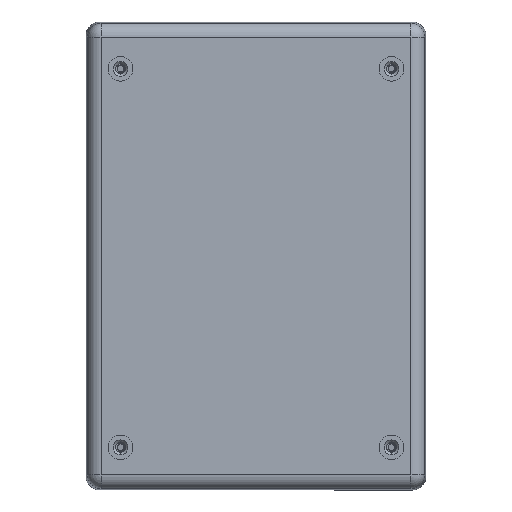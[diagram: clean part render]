
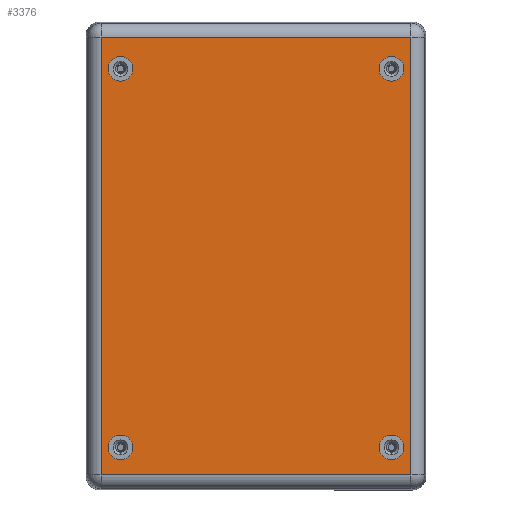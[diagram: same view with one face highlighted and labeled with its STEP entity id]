
A CAD part, front view. The second image highlights one B-rep face of the part: STEP entity #3376.
In plain terms, the highlighted planar face has unit normal (0, -1, 0).
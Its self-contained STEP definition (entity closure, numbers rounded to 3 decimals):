
#216 = CARTESIAN_POINT ( 'NONE',  ( 0., -22.5, 88.903 ) ) ;
#332 = DIRECTION ( 'NONE',  ( 0., 0., -1. ) ) ;
#352 = DIRECTION ( 'NONE',  ( 0., -1., 0. ) ) ;
#383 = AXIS2_PLACEMENT_3D ( 'NONE', #12275, #352, #9913 ) ;
#592 = DIRECTION ( 'NONE',  ( 1., 0., 0. ) ) ;
#627 = CARTESIAN_POINT ( 'NONE',  ( 55., -22.5, 76. ) ) ;
#630 = AXIS2_PLACEMENT_3D ( 'NONE', #12763, #5374, #13932 ) ;
#648 = CIRCLE ( 'NONE', #3522, 5. ) ;
#678 = ORIENTED_EDGE ( 'NONE', *, *, #11706, .F. ) ;
#692 = CARTESIAN_POINT ( 'NONE',  ( -55., -22.5, -72.7 ) ) ;
#783 = EDGE_CURVE ( 'NONE', #10419, #3339, #14618, .T. ) ;
#1232 = VERTEX_POINT ( 'NONE', #2791 ) ;
#1389 = LINE ( 'NONE', #12176, #2306 ) ;
#1571 = FACE_BOUND ( 'NONE', #1885, .T. ) ;
#1769 = FACE_OUTER_BOUND ( 'NONE', #4410, .T. ) ;
#1792 = ORIENTED_EDGE ( 'NONE', *, *, #11411, .F. ) ;
#1829 = DIRECTION ( 'NONE',  ( 0., -1., 0. ) ) ;
#1885 = EDGE_LOOP ( 'NONE', ( #9719, #7383 ) ) ;
#2025 = CARTESIAN_POINT ( 'NONE',  ( -55., -22.5, 71. ) ) ;
#2253 = AXIS2_PLACEMENT_3D ( 'NONE', #3258, #15393, #10583 ) ;
#2306 = VECTOR ( 'NONE', #4819, 1000. ) ;
#2307 = VERTEX_POINT ( 'NONE', #9687 ) ;
#2783 = VECTOR ( 'NONE', #14580, 1000. ) ;
#2791 = CARTESIAN_POINT ( 'NONE',  ( -62.903, -22.5, -88.903 ) ) ;
#2835 = PLANE ( 'NONE',  #13969 ) ;
#2940 = DIRECTION ( 'NONE',  ( 0., -1., 0. ) ) ;
#2941 = CIRCLE ( 'NONE', #5443, 5. ) ;
#3022 = EDGE_LOOP ( 'NONE', ( #678, #1792 ) ) ;
#3258 = CARTESIAN_POINT ( 'NONE',  ( 55., -22.5, 76. ) ) ;
#3300 = EDGE_CURVE ( 'NONE', #2307, #14830, #648, .T. ) ;
#3339 = VERTEX_POINT ( 'NONE', #15015 ) ;
#3345 = CIRCLE ( 'NONE', #383, 5. ) ;
#3376 = ADVANCED_FACE ( 'NONE', ( #1571, #15696, #8812, #10710, #1769 ), #2835, .T. ) ;
#3522 = AXIS2_PLACEMENT_3D ( 'NONE', #627, #1829, #6553 ) ;
#3711 = EDGE_CURVE ( 'NONE', #4746, #1232, #1389, .T. ) ;
#3840 = DIRECTION ( 'NONE',  ( 0., 0., -1. ) ) ;
#3915 = CIRCLE ( 'NONE', #10666, 5. ) ;
#4026 = DIRECTION ( 'NONE',  ( 0., 0., -1. ) ) ;
#4102 = DIRECTION ( 'NONE',  ( -1., 0., 0. ) ) ;
#4338 = CARTESIAN_POINT ( 'NONE',  ( 62.903, -22.5, -88.903 ) ) ;
#4410 = EDGE_LOOP ( 'NONE', ( #13746, #13359, #9645, #12551 ) ) ;
#4664 = CARTESIAN_POINT ( 'NONE',  ( 55., -22.5, -72.7 ) ) ;
#4746 = VERTEX_POINT ( 'NONE', #10604 ) ;
#4809 = VERTEX_POINT ( 'NONE', #2025 ) ;
#4819 = DIRECTION ( 'NONE',  ( 0., 0., -1. ) ) ;
#5004 = EDGE_CURVE ( 'NONE', #4809, #5027, #14309, .T. ) ;
#5027 = VERTEX_POINT ( 'NONE', #11403 ) ;
#5104 = VERTEX_POINT ( 'NONE', #4664 ) ;
#5183 = CARTESIAN_POINT ( 'NONE',  ( -55., -22.5, -77.7 ) ) ;
#5351 = CARTESIAN_POINT ( 'NONE',  ( -55., -22.5, 76. ) ) ;
#5374 = DIRECTION ( 'NONE',  ( 0., -1., 0. ) ) ;
#5443 = AXIS2_PLACEMENT_3D ( 'NONE', #5183, #9944, #332 ) ;
#5472 = CARTESIAN_POINT ( 'NONE',  ( 55., -22.5, -77.7 ) ) ;
#5589 = VERTEX_POINT ( 'NONE', #692 ) ;
#5615 = VECTOR ( 'NONE', #592, 1000. ) ;
#6056 = EDGE_CURVE ( 'NONE', #3339, #4746, #7386, .T. ) ;
#6553 = DIRECTION ( 'NONE',  ( 0., 0., -1. ) ) ;
#6722 = CARTESIAN_POINT ( 'NONE',  ( 0., -22.5, -88.903 ) ) ;
#7383 = ORIENTED_EDGE ( 'NONE', *, *, #3300, .F. ) ;
#7386 = LINE ( 'NONE', #216, #11791 ) ;
#7600 = CARTESIAN_POINT ( 'NONE',  ( 55., -22.5, -82.7 ) ) ;
#7764 = CIRCLE ( 'NONE', #13524, 5. ) ;
#8494 = EDGE_CURVE ( 'NONE', #1232, #10419, #10403, .T. ) ;
#8647 = EDGE_LOOP ( 'NONE', ( #10849, #9918 ) ) ;
#8812 = FACE_BOUND ( 'NONE', #8647, .T. ) ;
#9034 = DIRECTION ( 'NONE',  ( 0., 0., -1. ) ) ;
#9151 = ORIENTED_EDGE ( 'NONE', *, *, #13641, .F. ) ;
#9379 = VERTEX_POINT ( 'NONE', #11031 ) ;
#9555 = CARTESIAN_POINT ( 'NONE',  ( 62.903, -22.5, 0. ) ) ;
#9645 = ORIENTED_EDGE ( 'NONE', *, *, #3711, .T. ) ;
#9687 = CARTESIAN_POINT ( 'NONE',  ( 55., -22.5, 81. ) ) ;
#9719 = ORIENTED_EDGE ( 'NONE', *, *, #9773, .F. ) ;
#9773 = EDGE_CURVE ( 'NONE', #14830, #2307, #11126, .T. ) ;
#9913 = DIRECTION ( 'NONE',  ( 0., 0., -1. ) ) ;
#9918 = ORIENTED_EDGE ( 'NONE', *, *, #11166, .F. ) ;
#9944 = DIRECTION ( 'NONE',  ( 0., -1., 0. ) ) ;
#10196 = CARTESIAN_POINT ( 'NONE',  ( 0., -22.5, 0. ) ) ;
#10338 = DIRECTION ( 'NONE',  ( 0., -1., 0. ) ) ;
#10385 = CIRCLE ( 'NONE', #630, 5. ) ;
#10403 = LINE ( 'NONE', #6722, #5615 ) ;
#10419 = VERTEX_POINT ( 'NONE', #4338 ) ;
#10583 = DIRECTION ( 'NONE',  ( 0., 0., -1. ) ) ;
#10604 = CARTESIAN_POINT ( 'NONE',  ( -62.903, -22.5, 88.903 ) ) ;
#10666 = AXIS2_PLACEMENT_3D ( 'NONE', #5472, #10338, #15258 ) ;
#10710 = FACE_BOUND ( 'NONE', #12377, .T. ) ;
#10849 = ORIENTED_EDGE ( 'NONE', *, *, #12096, .F. ) ;
#11031 = CARTESIAN_POINT ( 'NONE',  ( -55., -22.5, -82.7 ) ) ;
#11126 = CIRCLE ( 'NONE', #2253, 5. ) ;
#11154 = DIRECTION ( 'NONE',  ( 0., -1., 0. ) ) ;
#11166 = EDGE_CURVE ( 'NONE', #5589, #9379, #7764, .T. ) ;
#11403 = CARTESIAN_POINT ( 'NONE',  ( -55., -22.5, 81. ) ) ;
#11411 = EDGE_CURVE ( 'NONE', #5104, #14757, #3345, .T. ) ;
#11487 = DIRECTION ( 'NONE',  ( 0., -1., 0. ) ) ;
#11706 = EDGE_CURVE ( 'NONE', #14757, #5104, #3915, .T. ) ;
#11791 = VECTOR ( 'NONE', #4102, 1000. ) ;
#12067 = AXIS2_PLACEMENT_3D ( 'NONE', #5351, #2940, #4026 ) ;
#12096 = EDGE_CURVE ( 'NONE', #9379, #5589, #2941, .T. ) ;
#12176 = CARTESIAN_POINT ( 'NONE',  ( -62.903, -22.5, 0. ) ) ;
#12275 = CARTESIAN_POINT ( 'NONE',  ( 55., -22.5, -77.7 ) ) ;
#12377 = EDGE_LOOP ( 'NONE', ( #13826, #9151 ) ) ;
#12551 = ORIENTED_EDGE ( 'NONE', *, *, #8494, .T. ) ;
#12763 = CARTESIAN_POINT ( 'NONE',  ( -55., -22.5, 76. ) ) ;
#13359 = ORIENTED_EDGE ( 'NONE', *, *, #6056, .T. ) ;
#13449 = CARTESIAN_POINT ( 'NONE',  ( -55., -22.5, -77.7 ) ) ;
#13524 = AXIS2_PLACEMENT_3D ( 'NONE', #13449, #11154, #3840 ) ;
#13641 = EDGE_CURVE ( 'NONE', #5027, #4809, #10385, .T. ) ;
#13746 = ORIENTED_EDGE ( 'NONE', *, *, #783, .T. ) ;
#13826 = ORIENTED_EDGE ( 'NONE', *, *, #5004, .F. ) ;
#13932 = DIRECTION ( 'NONE',  ( 0., 0., -1. ) ) ;
#13969 = AXIS2_PLACEMENT_3D ( 'NONE', #10196, #11487, #9034 ) ;
#14192 = CARTESIAN_POINT ( 'NONE',  ( 55., -22.5, 71. ) ) ;
#14309 = CIRCLE ( 'NONE', #12067, 5. ) ;
#14580 = DIRECTION ( 'NONE',  ( 0., 0., 1. ) ) ;
#14618 = LINE ( 'NONE', #9555, #2783 ) ;
#14757 = VERTEX_POINT ( 'NONE', #7600 ) ;
#14830 = VERTEX_POINT ( 'NONE', #14192 ) ;
#15015 = CARTESIAN_POINT ( 'NONE',  ( 62.903, -22.5, 88.903 ) ) ;
#15258 = DIRECTION ( 'NONE',  ( 0., 0., -1. ) ) ;
#15393 = DIRECTION ( 'NONE',  ( 0., -1., 0. ) ) ;
#15696 = FACE_BOUND ( 'NONE', #3022, .T. ) ;
